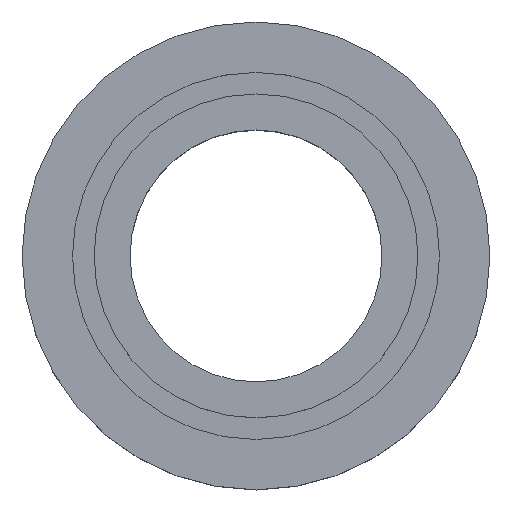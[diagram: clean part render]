
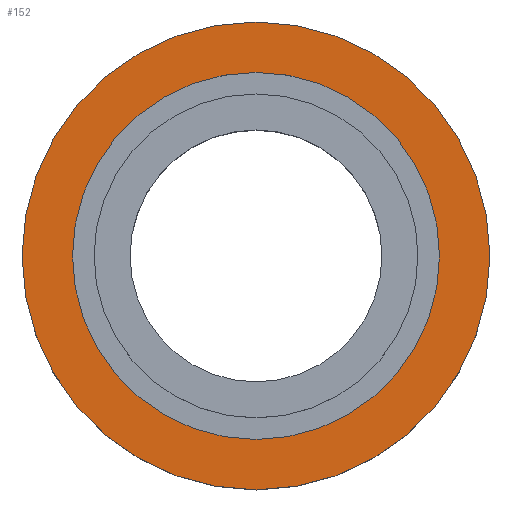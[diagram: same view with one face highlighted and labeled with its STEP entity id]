
A CAD part, top view. The second image highlights one B-rep face of the part: STEP entity #152.
In plain terms, the highlighted planar face has unit normal (0, 0, 1) as drawn and (0, 0, -1) by its records, which use the part's own axes.
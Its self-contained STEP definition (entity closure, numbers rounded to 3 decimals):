
#152 = ADVANCED_FACE( '', ( #206, #207 ), #208, .T. );
#206 = FACE_OUTER_BOUND( '', #301, .T. );
#207 = FACE_BOUND( '', #302, .T. );
#208 = PLANE( '', #303 );
#301 = EDGE_LOOP( '', ( #400 ) );
#302 = EDGE_LOOP( '', ( #401 ) );
#303 = AXIS2_PLACEMENT_3D( '', #402, #403, #404 );
#400 = ORIENTED_EDGE( '', *, *, #557, .T. );
#401 = ORIENTED_EDGE( '', *, *, #558, .F. );
#402 = CARTESIAN_POINT( '', ( -51., 0., 0. ) );
#403 = DIRECTION( '', ( 0., 0., -1. ) );
#404 = DIRECTION( '', ( -1., 0., 0. ) );
#557 = EDGE_CURVE( '', #598, #598, #599, .T. );
#558 = EDGE_CURVE( '', #600, #600, #601, .T. );
#598 = VERTEX_POINT( '', #656 );
#599 = CIRCLE( '', #657, 65. );
#600 = VERTEX_POINT( '', #658 );
#601 = CIRCLE( '', #659, 51. );
#656 = CARTESIAN_POINT( '', ( -65., 0., 0. ) );
#657 = AXIS2_PLACEMENT_3D( '', #714, #715, #716 );
#658 = CARTESIAN_POINT( '', ( -51., 0., 0. ) );
#659 = AXIS2_PLACEMENT_3D( '', #717, #718, #719 );
#714 = CARTESIAN_POINT( '', ( 0., 0., 0. ) );
#715 = DIRECTION( '', ( 0., 0., -1. ) );
#716 = DIRECTION( '', ( -1., 0., 0. ) );
#717 = CARTESIAN_POINT( '', ( 0., 0., 0. ) );
#718 = DIRECTION( '', ( 0., 0., -1. ) );
#719 = DIRECTION( '', ( -1., 0., 0. ) );
